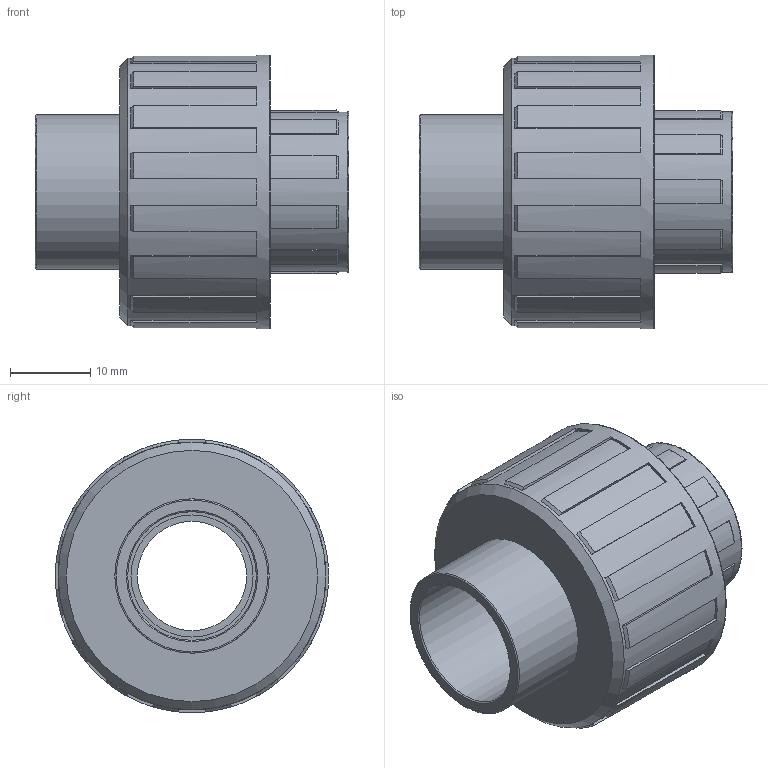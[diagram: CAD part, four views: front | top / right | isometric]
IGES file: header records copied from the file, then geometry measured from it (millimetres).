
Global section: file name: 050802016003.ipt; native system: Autodesk Inventor 2015; preprocessor: unknown; author: KIM; date: 20171207.164942; units: millimetre
Bounding box: 39 x 34 x 34 mm (x, y, z)
Volume: 15907.9 mm3; surface area: 6699.9 mm2
Topology: 1 solids, 1 shells, 125 faces, 366 edges, 248 vertices
Faces by surface type: plane 75, cone 27, cylinder 14, revolution 9
Full cylindrical faces by diameter (mm): 19.2 x1, 20 x1, 33.32 x1, 34 x1
